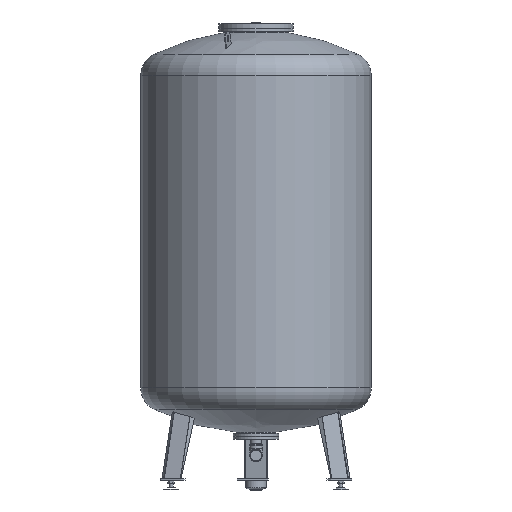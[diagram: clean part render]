
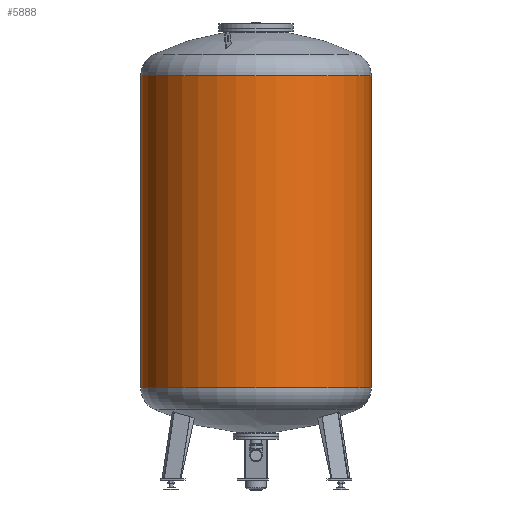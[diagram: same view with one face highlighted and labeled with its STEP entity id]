
A CAD part, left-side view. The second image highlights one B-rep face of the part: STEP entity #5888.
In plain terms, the highlighted cylindrical face has radius 500 mm (diameter 1000 mm), a full revolution.
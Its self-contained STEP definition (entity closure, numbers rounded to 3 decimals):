
#155=CYLINDRICAL_SURFACE('',#6462,500.);
#195=FACE_BOUND('',#816,.T.);
#474=FACE_OUTER_BOUND('',#815,.T.);
#815=EDGE_LOOP('',(#4593,#4594,#4595,#4596,#4597,#4598,#4599,#4600,#4601,
#4602,#4603,#4604,#4605,#4606));
#816=EDGE_LOOP('',(#4607,#4608,#4609,#4610));
#987=LINE('',#8531,#1412);
#990=LINE('',#8537,#1415);
#1104=LINE('',#9238,#1529);
#1130=LINE('',#9293,#1555);
#1206=LINE('',#9734,#1631);
#1207=LINE('',#9735,#1632);
#1412=VECTOR('',#6747,10.);
#1415=VECTOR('',#6752,10.);
#1529=VECTOR('',#7398,10.);
#1555=VECTOR('',#7442,10.);
#1631=VECTOR('',#7774,500.);
#1632=VECTOR('',#7775,500.);
#1834=CIRCLE('',#6059,500.);
#1835=CIRCLE('',#6064,500.);
#1987=CIRCLE('',#6325,500.);
#1988=CIRCLE('',#6326,500.);
#1989=CIRCLE('',#6334,500.);
#1990=CIRCLE('',#6335,500.);
#2057=CIRCLE('',#6458,500.);
#2058=CIRCLE('',#6459,500.);
#2061=CIRCLE('',#6463,500.);
#2062=CIRCLE('',#6464,500.);
#2182=VERTEX_POINT('',#8521);
#2183=VERTEX_POINT('',#8522);
#2186=VERTEX_POINT('',#8530);
#2188=VERTEX_POINT('',#8536);
#2390=VERTEX_POINT('',#9226);
#2391=VERTEX_POINT('',#9227);
#2394=VERTEX_POINT('',#9233);
#2395=VERTEX_POINT('',#9237);
#2414=VERTEX_POINT('',#9287);
#2415=VERTEX_POINT('',#9288);
#2525=VERTEX_POINT('',#9723);
#2526=VERTEX_POINT('',#9724);
#2527=VERTEX_POINT('',#9730);
#2528=VERTEX_POINT('',#9731);
#2764=EDGE_CURVE('',#2182,#2183,#1834,.T.);
#2768=EDGE_CURVE('',#2186,#2182,#987,.T.);
#2771=EDGE_CURVE('',#2183,#2188,#990,.T.);
#2775=EDGE_CURVE('',#2188,#2186,#1835,.T.);
#3072=EDGE_CURVE('',#2390,#2391,#1987,.T.);
#3076=EDGE_CURVE('',#2391,#2394,#1988,.T.);
#3077=EDGE_CURVE('',#2395,#2390,#1104,.T.);
#3102=EDGE_CURVE('',#2414,#2415,#1989,.T.);
#3104=EDGE_CURVE('',#2415,#2395,#1990,.T.);
#3105=EDGE_CURVE('',#2394,#2414,#1130,.T.);
#3264=EDGE_CURVE('',#2525,#2526,#2057,.T.);
#3265=EDGE_CURVE('',#2526,#2525,#2058,.T.);
#3268=EDGE_CURVE('',#2527,#2528,#2061,.T.);
#3269=EDGE_CURVE('',#2528,#2527,#2062,.T.);
#3270=EDGE_CURVE('',#2528,#2415,#1206,.T.);
#3271=EDGE_CURVE('',#2391,#2526,#1207,.T.);
#4593=ORIENTED_EDGE('',*,*,#3268,.F.);
#4594=ORIENTED_EDGE('',*,*,#3269,.F.);
#4595=ORIENTED_EDGE('',*,*,#3270,.T.);
#4596=ORIENTED_EDGE('',*,*,#3104,.T.);
#4597=ORIENTED_EDGE('',*,*,#3077,.T.);
#4598=ORIENTED_EDGE('',*,*,#3072,.T.);
#4599=ORIENTED_EDGE('',*,*,#3271,.T.);
#4600=ORIENTED_EDGE('',*,*,#3265,.T.);
#4601=ORIENTED_EDGE('',*,*,#3264,.T.);
#4602=ORIENTED_EDGE('',*,*,#3271,.F.);
#4603=ORIENTED_EDGE('',*,*,#3076,.T.);
#4604=ORIENTED_EDGE('',*,*,#3105,.T.);
#4605=ORIENTED_EDGE('',*,*,#3102,.T.);
#4606=ORIENTED_EDGE('',*,*,#3270,.F.);
#4607=ORIENTED_EDGE('',*,*,#2768,.T.);
#4608=ORIENTED_EDGE('',*,*,#2764,.T.);
#4609=ORIENTED_EDGE('',*,*,#2771,.T.);
#4610=ORIENTED_EDGE('',*,*,#2775,.T.);
#5888=ADVANCED_FACE('',(#474,#195),#155,.T.);
#6059=AXIS2_PLACEMENT_3D('',#8523,#6740,#6741);
#6064=AXIS2_PLACEMENT_3D('',#8544,#6760,#6761);
#6325=AXIS2_PLACEMENT_3D('',#9228,#7389,#7390);
#6326=AXIS2_PLACEMENT_3D('',#9235,#7394,#7395);
#6334=AXIS2_PLACEMENT_3D('',#9289,#7435,#7436);
#6335=AXIS2_PLACEMENT_3D('',#9291,#7438,#7439);
#6458=AXIS2_PLACEMENT_3D('',#9725,#7760,#7761);
#6459=AXIS2_PLACEMENT_3D('',#9726,#7762,#7763);
#6462=AXIS2_PLACEMENT_3D('',#9729,#7768,#7769);
#6463=AXIS2_PLACEMENT_3D('',#9732,#7770,#7771);
#6464=AXIS2_PLACEMENT_3D('',#9733,#7772,#7773);
#6740=DIRECTION('center_axis',(0.,0.,1.));
#6741=DIRECTION('ref_axis',(-1.,0.,0.));
#6747=DIRECTION('',(0.,0.,1.));
#6752=DIRECTION('',(0.,0.,-1.));
#6760=DIRECTION('center_axis',(0.,0.,-1.));
#6761=DIRECTION('ref_axis',(-1.,0.,0.));
#7389=DIRECTION('center_axis',(0.,0.,1.));
#7390=DIRECTION('ref_axis',(-1.,0.,0.));
#7394=DIRECTION('center_axis',(0.,0.,1.));
#7395=DIRECTION('ref_axis',(-1.,0.,0.));
#7398=DIRECTION('',(0.,0.,1.));
#7435=DIRECTION('center_axis',(0.,0.,-1.));
#7436=DIRECTION('ref_axis',(-1.,0.,0.));
#7438=DIRECTION('center_axis',(0.,0.,-1.));
#7439=DIRECTION('ref_axis',(-1.,0.,0.));
#7442=DIRECTION('',(0.,0.,-1.));
#7760=DIRECTION('center_axis',(0.,0.,-1.));
#7761=DIRECTION('ref_axis',(1.,0.,0.));
#7762=DIRECTION('center_axis',(0.,0.,-1.));
#7763=DIRECTION('ref_axis',(1.,0.,0.));
#7768=DIRECTION('center_axis',(0.,0.,-1.));
#7769=DIRECTION('ref_axis',(-1.,0.,0.));
#7770=DIRECTION('center_axis',(0.,0.,-1.));
#7771=DIRECTION('ref_axis',(1.,0.,0.));
#7772=DIRECTION('center_axis',(0.,0.,-1.));
#7773=DIRECTION('ref_axis',(1.,0.,0.));
#7774=DIRECTION('',(0.,0.,1.));
#7775=DIRECTION('',(0.,0.,1.));
#8521=CARTESIAN_POINT('',(388.871,-314.292,1644.5));
#8522=CARTESIAN_POINT('',(452.556,-212.586,1644.5));
#8523=CARTESIAN_POINT('Origin',(0.,0.,1644.5));
#8530=CARTESIAN_POINT('',(388.871,-314.292,1554.5));
#8531=CARTESIAN_POINT('',(388.871,-314.292,455.288));
#8536=CARTESIAN_POINT('',(452.556,-212.586,1554.5));
#8537=CARTESIAN_POINT('',(452.556,-212.586,455.288));
#8544=CARTESIAN_POINT('Origin',(0.,0.,1554.5));
#9226=CARTESIAN_POINT('',(486.595,-115.,1648.5));
#9227=CARTESIAN_POINT('',(500.,0.,1648.5));
#9228=CARTESIAN_POINT('Origin',(0.,0.,1648.5));
#9233=CARTESIAN_POINT('',(486.595,115.,1648.5));
#9235=CARTESIAN_POINT('Origin',(0.,0.,1648.5));
#9237=CARTESIAN_POINT('',(486.595,-115.,1027.8));
#9238=CARTESIAN_POINT('',(486.595,-115.,455.288));
#9287=CARTESIAN_POINT('',(486.595,115.,1027.8));
#9288=CARTESIAN_POINT('',(500.,0.,1027.8));
#9289=CARTESIAN_POINT('Origin',(0.,0.,1027.8));
#9291=CARTESIAN_POINT('Origin',(0.,0.,1027.8));
#9293=CARTESIAN_POINT('',(486.595,115.,455.288));
#9723=CARTESIAN_POINT('',(-500.,0.,1797.235));
#9724=CARTESIAN_POINT('',(500.,0.,1797.235));
#9725=CARTESIAN_POINT('Origin',(0.,0.,1797.235));
#9726=CARTESIAN_POINT('Origin',(0.,0.,1797.235));
#9729=CARTESIAN_POINT('Origin',(0.,0.,455.288));
#9730=CARTESIAN_POINT('',(-500.,0.,443.075));
#9731=CARTESIAN_POINT('',(500.,0.,443.075));
#9732=CARTESIAN_POINT('Origin',(0.,0.,443.075));
#9733=CARTESIAN_POINT('Origin',(0.,0.,443.075));
#9734=CARTESIAN_POINT('',(500.,0.,455.288));
#9735=CARTESIAN_POINT('',(500.,0.,455.288));
